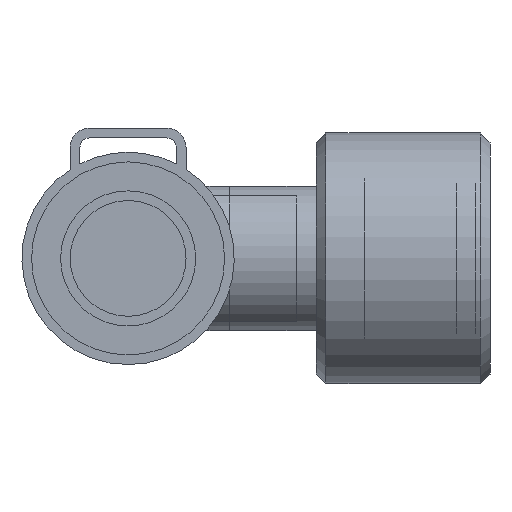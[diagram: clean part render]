
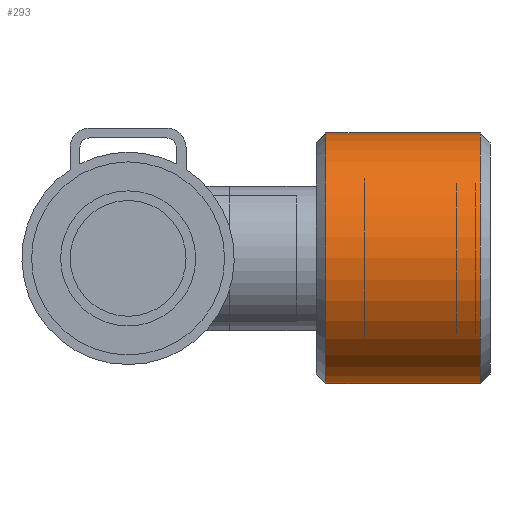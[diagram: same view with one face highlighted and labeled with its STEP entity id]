
A CAD part, front view. The second image highlights one B-rep face of the part: STEP entity #293.
In plain terms, the highlighted cylindrical face has radius 13 mm (diameter 26 mm), a full revolution.
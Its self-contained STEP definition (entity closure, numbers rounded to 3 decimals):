
#293 = ADVANCED_FACE( '', ( #381, #382 ), #383, .T. );
#381 = FACE_OUTER_BOUND( '', #549, .T. );
#382 = FACE_OUTER_BOUND( '', #550, .T. );
#383 = CYLINDRICAL_SURFACE( '', #551, 13. );
#549 = EDGE_LOOP( '', ( #742 ) );
#550 = EDGE_LOOP( '', ( #743 ) );
#551 = AXIS2_PLACEMENT_3D( '', #744, #745, #746 );
#742 = ORIENTED_EDGE( '', *, *, #1035, .T. );
#743 = ORIENTED_EDGE( '', *, *, #1036, .F. );
#744 = CARTESIAN_POINT( '', ( 18., 0., 0. ) );
#745 = DIRECTION( '', ( -1., 0., 0. ) );
#746 = DIRECTION( '', ( 0., 0., -1. ) );
#1035 = EDGE_CURVE( '', #1132, #1132, #1133, .T. );
#1036 = EDGE_CURVE( '', #1134, #1134, #1135, .T. );
#1132 = VERTEX_POINT( '', #1282 );
#1133 = CIRCLE( '', #1283, 13. );
#1134 = VERTEX_POINT( '', #1284 );
#1135 = CIRCLE( '', #1285, 13. );
#1282 = CARTESIAN_POINT( '', ( 1., 0., -13. ) );
#1283 = AXIS2_PLACEMENT_3D( '', #1471, #1472, #1473 );
#1284 = CARTESIAN_POINT( '', ( 17., 0., -13. ) );
#1285 = AXIS2_PLACEMENT_3D( '', #1474, #1475, #1476 );
#1471 = CARTESIAN_POINT( '', ( 1., 0., 0. ) );
#1472 = DIRECTION( '', ( 1., 0., 0. ) );
#1473 = DIRECTION( '', ( 0., 0., -1. ) );
#1474 = CARTESIAN_POINT( '', ( 17., 0., 0. ) );
#1475 = DIRECTION( '', ( 1., 0., 0. ) );
#1476 = DIRECTION( '', ( 0., 0., -1. ) );
